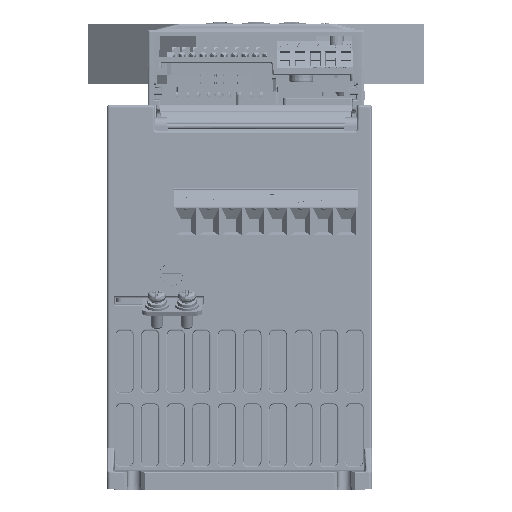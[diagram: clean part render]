
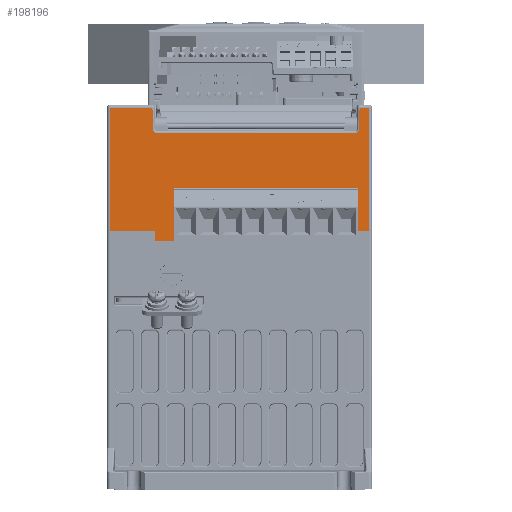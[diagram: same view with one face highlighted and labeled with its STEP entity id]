
A CAD part, front view. The second image highlights one B-rep face of the part: STEP entity #198196.
In plain terms, the highlighted planar face has unit normal (0, -1, 0).
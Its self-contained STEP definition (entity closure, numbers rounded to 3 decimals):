
#60997=DIRECTION('',(1.,0.,0.));
#60998=VECTOR('',#60997,6.232);
#60999=CARTESIAN_POINT('',(-33.675,-187.5,-45.299));
#61000=LINE('',#60999,#60998);
#61004=DIRECTION('',(0.017,0.,-1.));
#61005=VECTOR('',#61004,3.5);
#61006=CARTESIAN_POINT('',(-33.736,-187.5,-41.8));
#61007=LINE('',#61006,#61005);
#61011=DIRECTION('',(0.,0.,-1.));
#61012=VECTOR('',#61011,41.);
#61013=CARTESIAN_POINT('',(-48.7,-187.5,-0.8));
#61014=LINE('',#61013,#61012);
#61018=DIRECTION('',(1.,0.,0.));
#61019=VECTOR('',#61018,14.265);
#61020=CARTESIAN_POINT('',(-48.7,-187.5,-0.8));
#61021=LINE('',#61020,#61019);
#61025=DIRECTION('',(0.017,0.,-1.));
#61026=VECTOR('',#61025,7.224);
#61027=CARTESIAN_POINT('',(-34.435,-187.5,-0.8));
#61028=LINE('',#61027,#61026);
#61032=CARTESIAN_POINT('',(-33.009,-187.5,-8.));
#61033=DIRECTION('',(0.,-1.,0.));
#61034=DIRECTION('',(-1.,0.,-0.017));
#61035=AXIS2_PLACEMENT_3D('',#61032,#61033,#61034);
#61040=DIRECTION('',(1.,0.,0.));
#61041=VECTOR('',#61040,66.017);
#61042=CARTESIAN_POINT('',(-33.009,-187.5,-9.3));
#61043=LINE('',#61042,#61041);
#61047=CARTESIAN_POINT('',(33.009,-187.5,-8.));
#61048=DIRECTION('',(0.,-1.,0.));
#61049=DIRECTION('',(0.,0.,-1.));
#61050=AXIS2_PLACEMENT_3D('',#61047,#61048,#61049);
#61055=DIRECTION('',(0.017,0.,1.));
#61056=VECTOR('',#61055,7.224);
#61057=CARTESIAN_POINT('',(34.308,-187.5,-8.023));
#61058=LINE('',#61057,#61056);
#61062=DIRECTION('',(1.,0.,0.));
#61063=VECTOR('',#61062,3.265);
#61064=CARTESIAN_POINT('',(34.435,-187.5,-0.8));
#61065=LINE('',#61064,#61063);
#61069=DIRECTION('',(0.,0.,-1.));
#61070=VECTOR('',#61069,41.);
#61071=CARTESIAN_POINT('',(37.7,-187.5,-0.8));
#61072=LINE('',#61071,#61070);
#61076=DIRECTION('',(-0.017,0.,1.));
#61077=VECTOR('',#61076,10.952);
#61078=CARTESIAN_POINT('',(34.001,-187.5,-41.8));
#61079=LINE('',#61078,#61077);
#61083=DIRECTION('',(-1.,0.,0.));
#61084=VECTOR('',#61083,6.862);
#61085=CARTESIAN_POINT('',(33.81,-187.5,-30.85));
#61086=LINE('',#61085,#61084);
#61090=DIRECTION('',(-0.087,0.,0.996));
#61091=VECTOR('',#61090,1.927);
#61092=CARTESIAN_POINT('',(26.948,-187.5,-30.85));
#61093=LINE('',#61092,#61091);
#61097=DIRECTION('',(-1.,0.,0.));
#61098=VECTOR('',#61097,2.4);
#61099=CARTESIAN_POINT('',(26.78,-187.5,-28.93));
#61100=LINE('',#61099,#61098);
#61104=DIRECTION('',(-0.087,0.,-0.996));
#61105=VECTOR('',#61104,1.927);
#61106=CARTESIAN_POINT('',(24.38,-187.5,-28.93));
#61107=LINE('',#61106,#61105);
#61111=DIRECTION('',(-1.,0.,0.));
#61112=VECTOR('',#61111,41.804);
#61113=CARTESIAN_POINT('',(24.212,-187.5,-30.85));
#61114=LINE('',#61113,#61112);
#61118=DIRECTION('',(-0.087,0.,0.996));
#61119=VECTOR('',#61118,1.927);
#61120=CARTESIAN_POINT('',(-17.592,-187.5,-30.85));
#61121=LINE('',#61120,#61119);
#61125=DIRECTION('',(-1.,0.,0.));
#61126=VECTOR('',#61125,2.4);
#61127=CARTESIAN_POINT('',(-17.76,-187.5,-28.93));
#61128=LINE('',#61127,#61126);
#61132=DIRECTION('',(-0.087,0.,-0.996));
#61133=VECTOR('',#61132,1.927);
#61134=CARTESIAN_POINT('',(-20.16,-187.5,-28.93));
#61135=LINE('',#61134,#61133);
#61139=DIRECTION('',(-1.,0.,0.));
#61140=VECTOR('',#61139,6.862);
#61141=CARTESIAN_POINT('',(-20.328,-187.5,-30.85));
#61142=LINE('',#61141,#61140);
#61153=DIRECTION('',(0.017,0.,1.));
#61154=VECTOR('',#61153,14.451);
#61155=CARTESIAN_POINT('',(-27.442,-187.5,-45.299));
#61156=LINE('',#61155,#61154);
#65348=DIRECTION('',(1.,0.,0.));
#65349=VECTOR('',#65348,3.699);
#65350=CARTESIAN_POINT('',(34.001,-187.5,-41.8));
#65351=LINE('',#65350,#65349);
#65408=DIRECTION('',(1.,0.,0.));
#65409=VECTOR('',#65408,14.964);
#65410=CARTESIAN_POINT('',(-48.7,-187.5,-41.8));
#65411=LINE('',#65410,#65409);
#114436=CARTESIAN_POINT('',(37.7,-187.5,-41.8));
#114438=VERTEX_POINT('',#114436);
#114439=CARTESIAN_POINT('',(-48.7,-187.5,-41.8));
#114441=VERTEX_POINT('',#114439);
#117833=CARTESIAN_POINT('',(-48.7,-187.5,-0.8));
#117834=VERTEX_POINT('',#117833);
#117837=CARTESIAN_POINT('',(-34.435,-187.5,-0.8));
#117838=VERTEX_POINT('',#117837);
#117843=CARTESIAN_POINT('',(-34.308,-187.5,-8.023));
#117844=VERTEX_POINT('',#117843);
#117847=CARTESIAN_POINT('',(-33.009,-187.5,-9.3));
#117848=VERTEX_POINT('',#117847);
#117851=CARTESIAN_POINT('',(33.009,-187.5,-9.3));
#117852=VERTEX_POINT('',#117851);
#117855=CARTESIAN_POINT('',(34.308,-187.5,-8.023));
#117856=VERTEX_POINT('',#117855);
#117859=CARTESIAN_POINT('',(34.435,-187.5,-0.8));
#117860=VERTEX_POINT('',#117859);
#117865=CARTESIAN_POINT('',(37.7,-187.5,-0.8));
#117866=VERTEX_POINT('',#117865);
#117927=CARTESIAN_POINT('',(34.001,-187.5,-41.8));
#117929=VERTEX_POINT('',#117927);
#117931=CARTESIAN_POINT('',(33.81,-187.5,-30.85));
#117932=VERTEX_POINT('',#117931);
#117933=CARTESIAN_POINT('',(26.948,-187.5,-30.85));
#117934=VERTEX_POINT('',#117933);
#117935=CARTESIAN_POINT('',(26.78,-187.5,-28.93));
#117936=VERTEX_POINT('',#117935);
#117937=CARTESIAN_POINT('',(24.38,-187.5,-28.93));
#117938=VERTEX_POINT('',#117937);
#117939=CARTESIAN_POINT('',(24.212,-187.5,-30.85));
#117940=VERTEX_POINT('',#117939);
#117941=CARTESIAN_POINT('',(-17.592,-187.5,-30.85));
#117942=VERTEX_POINT('',#117941);
#117943=CARTESIAN_POINT('',(-17.76,-187.5,-28.93));
#117944=VERTEX_POINT('',#117943);
#117945=CARTESIAN_POINT('',(-20.16,-187.5,-28.93));
#117946=VERTEX_POINT('',#117945);
#117947=CARTESIAN_POINT('',(-20.328,-187.5,-30.85));
#117948=VERTEX_POINT('',#117947);
#117949=CARTESIAN_POINT('',(-27.19,-187.5,-30.85));
#117950=VERTEX_POINT('',#117949);
#117973=CARTESIAN_POINT('',(-33.675,-187.5,-45.299));
#117974=CARTESIAN_POINT('',(-27.442,-187.5,-45.299));
#117975=VERTEX_POINT('',#117973);
#117976=VERTEX_POINT('',#117974);
#117981=CARTESIAN_POINT('',(-33.736,-187.5,-41.8));
#117983=VERTEX_POINT('',#117981);
#198142=CARTESIAN_POINT('',(-49.5,-187.5,0.));
#198143=DIRECTION('',(0.,-1.,0.));
#198144=DIRECTION('',(1.,0.,0.));
#198145=AXIS2_PLACEMENT_3D('',#198142,#198143,#198144);
#198146=PLANE('',#198145);
#198148=ORIENTED_EDGE('',*,*,#198147,.F.);
#198150=ORIENTED_EDGE('',*,*,#198149,.F.);
#198152=ORIENTED_EDGE('',*,*,#198151,.F.);
#198154=ORIENTED_EDGE('',*,*,#198153,.F.);
#198155=ORIENTED_EDGE('',*,*,#198134,.F.);
#198157=ORIENTED_EDGE('',*,*,#198156,.T.);
#198159=ORIENTED_EDGE('',*,*,#198158,.T.);
#198161=ORIENTED_EDGE('',*,*,#198160,.T.);
#198163=ORIENTED_EDGE('',*,*,#198162,.T.);
#198165=ORIENTED_EDGE('',*,*,#198164,.T.);
#198167=ORIENTED_EDGE('',*,*,#198166,.T.);
#198169=ORIENTED_EDGE('',*,*,#198168,.T.);
#198171=ORIENTED_EDGE('',*,*,#198170,.T.);
#198173=ORIENTED_EDGE('',*,*,#198172,.F.);
#198175=ORIENTED_EDGE('',*,*,#198174,.T.);
#198177=ORIENTED_EDGE('',*,*,#198176,.T.);
#198179=ORIENTED_EDGE('',*,*,#198178,.T.);
#198181=ORIENTED_EDGE('',*,*,#198180,.T.);
#198183=ORIENTED_EDGE('',*,*,#198182,.T.);
#198185=ORIENTED_EDGE('',*,*,#198184,.T.);
#198187=ORIENTED_EDGE('',*,*,#198186,.T.);
#198189=ORIENTED_EDGE('',*,*,#198188,.T.);
#198191=ORIENTED_EDGE('',*,*,#198190,.T.);
#198193=ORIENTED_EDGE('',*,*,#198192,.T.);
#198194=EDGE_LOOP('',(#198148,#198150,#198152,#198154,#198155,#198157,#198159,
#198161,#198163,#198165,#198167,#198169,#198171,#198173,#198175,#198177,#198179,
#198181,#198183,#198185,#198187,#198189,#198191,#198193));
#198195=FACE_OUTER_BOUND('',#198194,.F.);
#198196=ADVANCED_FACE('',(#198195),#198146,.T.);
#61036=CIRCLE('',#61035,1.3);
#61051=CIRCLE('',#61050,1.3);
#198134=EDGE_CURVE('',#117834,#114441,#61014,.T.);
#198147=EDGE_CURVE('',#117976,#117950,#61156,.T.);
#198149=EDGE_CURVE('',#117975,#117976,#61000,.T.);
#198151=EDGE_CURVE('',#117983,#117975,#61007,.T.);
#198153=EDGE_CURVE('',#114441,#117983,#65411,.T.);
#198156=EDGE_CURVE('',#117834,#117838,#61021,.T.);
#198158=EDGE_CURVE('',#117838,#117844,#61028,.T.);
#198160=EDGE_CURVE('',#117844,#117848,#61036,.T.);
#198162=EDGE_CURVE('',#117848,#117852,#61043,.T.);
#198164=EDGE_CURVE('',#117852,#117856,#61051,.T.);
#198166=EDGE_CURVE('',#117856,#117860,#61058,.T.);
#198168=EDGE_CURVE('',#117860,#117866,#61065,.T.);
#198170=EDGE_CURVE('',#117866,#114438,#61072,.T.);
#198172=EDGE_CURVE('',#117929,#114438,#65351,.T.);
#198174=EDGE_CURVE('',#117929,#117932,#61079,.T.);
#198176=EDGE_CURVE('',#117932,#117934,#61086,.T.);
#198178=EDGE_CURVE('',#117934,#117936,#61093,.T.);
#198180=EDGE_CURVE('',#117936,#117938,#61100,.T.);
#198182=EDGE_CURVE('',#117938,#117940,#61107,.T.);
#198184=EDGE_CURVE('',#117940,#117942,#61114,.T.);
#198186=EDGE_CURVE('',#117942,#117944,#61121,.T.);
#198188=EDGE_CURVE('',#117944,#117946,#61128,.T.);
#198190=EDGE_CURVE('',#117946,#117948,#61135,.T.);
#198192=EDGE_CURVE('',#117948,#117950,#61142,.T.);
